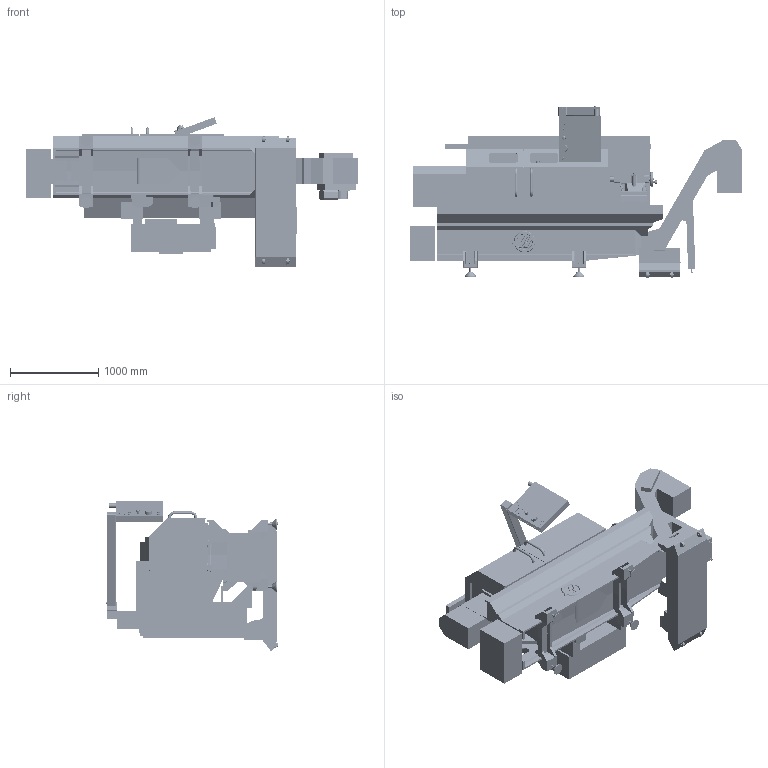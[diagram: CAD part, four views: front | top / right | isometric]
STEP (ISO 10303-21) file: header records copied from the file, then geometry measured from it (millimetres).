
FILE_DESCRIPTION (( 'STEP AP203' ), '1' );
FILE_NAME ('TL-2P_12_2024.STEP', '2024-12-04T02:13:42', ( '' ), ( '' ), 'SwSTEP 2.0', 'SolidWorks 2022', '' );
FILE_SCHEMA (( 'CONFIG_CONTROL_DESIGN' ));
Products named in the file (19): TL-2P ATT4 Metric; TL-2P Conveyor; TL-2P Pendant; TL-2P Turret Housing; TL-2P 8-STation Tooling; TL-2P 6 Inch Chuck; TL-2P Leveling Pads; TL-2P_12_2024; TL-2P 5C Collet Chuck; TL-2P Base; TL-2P Spindle Head; TL-2P ATT4 Inch; TL-2P 20 Gallon Tank; TL-2P Enclosure; TL-2P Steady Rest; TL-2P Tail Stock; TL-2P ATT8; TL-2P Cross Slide; TL-2P Saddle
Assembly tree (18 placements, depth 2):
  TL-2P_12_2024
    TL-2P Base
    TL-2P Saddle
    TL-2P Cross Slide
    TL-2P ATT4 Inch
    TL-2P ATT4 Metric
    TL-2P ATT8
    TL-2P 8-STation Tooling
    TL-2P Steady Rest
    TL-2P Tail Stock
    TL-2P 6 Inch Chuck
    TL-2P Leveling Pads
    TL-2P Conveyor
    TL-2P 20 Gallon Tank
    TL-2P Enclosure
    TL-2P Pendant
    TL-2P 5C Collet Chuck
    TL-2P Spindle Head
    TL-2P Turret Housing
Bounding box: 3768.22 x 1951.62 x 1697.46 mm (x, y, z)
Volume: 1233344876.6 mm3; surface area: 48859158 mm2
Topology: 43 solids, 94 shells, 10949 faces, 29297 edges, 18786 vertices
Faces by surface type: plane 6903, cylinder 2088, bspline 948, cone 644, torus 314, sphere 52
Entity records: 390158 total; most frequent: CARTESIAN_POINT 120961, ORIENTED_EDGE 58262, DIRECTION 51376, EDGE_CURVE 29131, LINE 20404, VECTOR 20404, VERTEX_POINT 18786, AXIS2_PLACEMENT_3D 15486
